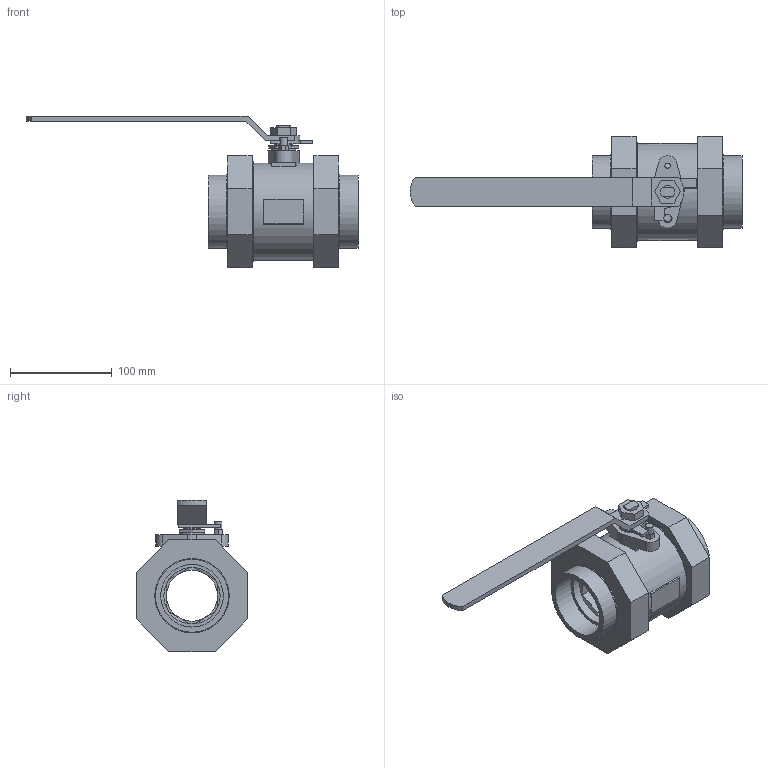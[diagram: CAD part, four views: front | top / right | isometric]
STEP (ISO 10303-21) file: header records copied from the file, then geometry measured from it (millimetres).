
FILE_DESCRIPTION((' '),'2;1');
FILE_NAME('N:\Technical Support\Private\Jomar Valve CAD\Ball Valves\CS and SS\2002N-DUE\2.0 S-CS[SS]-2002N-DUE (101-998 [101-988])FusionCopy.stp.step','2017-01-24T13:05:49',(' '),(' '),' ','ACIS',' ');
FILE_SCHEMA(('CONFIG_CONTROL_DESIGN'));
Length unit declared in the file: inch
Products named in the file (14): N:\Technical Support\Private\Jomar Valve CAD\Ball Valves\CS and SS\2002N-DUE\2.0 S-CS[SS]-2002N-DUE (101-998 [101-988])FusionCopy.stp.step; Body1; Body2; Body3; Body4; Body5; Body6; Body7; Body8; Body9; Body10; Body11; Body12; Body13
Assembly tree (13 placements, depth 2):
  N:\Technical Support\Private\Jomar Valve CAD\Ball Valves\CS and SS\2002N-DUE\2.0 S-CS[SS]-2002N-DUE (101-998 [101-988])FusionCopy.stp.step
    Body1
    Body2
    Body3
    Body4
    Body5
    Body6
    Body7
    Body8
    Body9
    Body10
    Body11
    Body12
    Body13
Bounding box: 325.9 x 109.73 x 148.48 mm (x, y, z)
Volume: 776759.9 mm3; surface area: 172997.2 mm2
Topology: 13 solids, 13 shells, 178 faces, 390 edges, 257 vertices
Faces by surface type: plane 104, bspline 36, cylinder 35, cone 3
Full cylindrical faces by diameter (mm): 5.207 x1, 6.223 x1, 7.315 x1, 12.395 x1, 17.018 x1, 23.698 x1, 50.038 x1, 55.372 x1, 61.468 x1, 66.802 x2, 71.628 x1, 72.136 x2, 72.898 x1, 73.025 x1, 79.426 x1, 79.883 x1, 83.312 x1, 95.25 x1, 96.266 x1, 97.79 x1
Entity records: 6814 total; most frequent: CARTESIAN_POINT 1072, DIRECTION 785, ORIENTED_EDGE 694, EDGE_CURVE 347, AXIS2_PLACEMENT_3D 277, EDGE_LOOP 257, VERTEX_POINT 250, VECTOR 231
